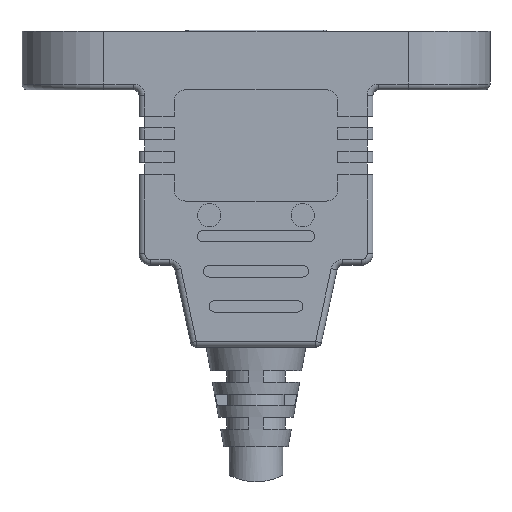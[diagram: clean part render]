
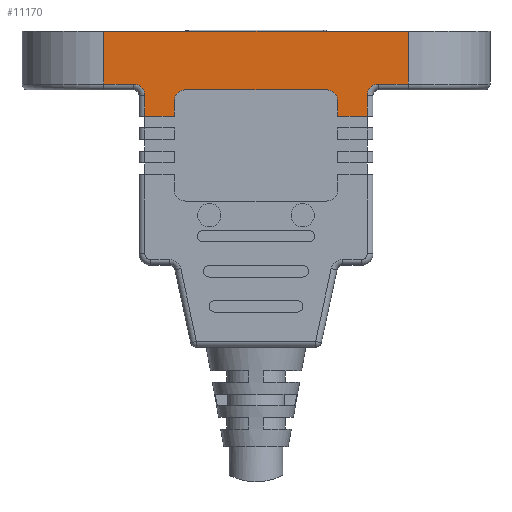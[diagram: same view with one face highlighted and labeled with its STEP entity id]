
A CAD part, front view. The second image highlights one B-rep face of the part: STEP entity #11170.
In plain terms, the highlighted planar face has unit normal (0, -1, 0).
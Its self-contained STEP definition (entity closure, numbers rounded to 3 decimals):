
#5 = EDGE_CURVE ( 'NONE', #11988, #7165, #15128, .T. ) ;
#55 = CARTESIAN_POINT ( 'NONE',  ( 33., 0., 5. ) ) ;
#143 = CIRCLE ( 'NONE', #6506, 1. ) ;
#535 = VECTOR ( 'NONE', #1650, 1000. ) ;
#581 = LINE ( 'NONE', #55, #13187 ) ;
#598 = LINE ( 'NONE', #1717, #9202 ) ;
#689 = LINE ( 'NONE', #10409, #6410 ) ;
#742 = VECTOR ( 'NONE', #5722, 1000. ) ;
#1275 = CARTESIAN_POINT ( 'NONE',  ( 13., 0., -1. ) ) ;
#1345 = CARTESIAN_POINT ( 'NONE',  ( 14., 0., -1. ) ) ;
#1611 = VERTEX_POINT ( 'NONE', #1275 ) ;
#1650 = DIRECTION ( 'NONE',  ( -1., 0., 0. ) ) ;
#1717 = CARTESIAN_POINT ( 'NONE',  ( 10.5, 0., 5. ) ) ;
#1747 = CARTESIAN_POINT ( 'NONE',  ( 33., 0., 0.5 ) ) ;
#1931 = DIRECTION ( 'NONE',  ( 0., 1., 0. ) ) ;
#1956 = LINE ( 'NONE', #12180, #10180 ) ;
#2083 = DIRECTION ( 'NONE',  ( -1., 0., 0. ) ) ;
#2164 = VECTOR ( 'NONE', #9977, 1000. ) ;
#2226 = EDGE_CURVE ( 'NONE', #1611, #15515, #3768, .T. ) ;
#2281 = VERTEX_POINT ( 'NONE', #13775 ) ;
#2369 = VERTEX_POINT ( 'NONE', #6596 ) ;
#2558 = DIRECTION ( 'NONE',  ( -1., 0., 0. ) ) ;
#2597 = ORIENTED_EDGE ( 'NONE', *, *, #14927, .F. ) ;
#2857 = DIRECTION ( 'NONE',  ( -1., 0., 0. ) ) ;
#3007 = CARTESIAN_POINT ( 'NONE',  ( 9.5, 0., -0.5 ) ) ;
#3020 = CARTESIAN_POINT ( 'NONE',  ( 13., 0., -2.25 ) ) ;
#3308 = FACE_OUTER_BOUND ( 'NONE', #10779, .T. ) ;
#3443 = VECTOR ( 'NONE', #5868, 1000. ) ;
#3447 = ORIENTED_EDGE ( 'NONE', *, *, #5, .F. ) ;
#3459 = EDGE_CURVE ( 'NONE', #6348, #5518, #12184, .T. ) ;
#3768 = CIRCLE ( 'NONE', #14441, 1. ) ;
#3810 = EDGE_CURVE ( 'NONE', #12704, #2369, #598, .T. ) ;
#3815 = EDGE_CURVE ( 'NONE', #12704, #5518, #9952, .T. ) ;
#3914 = DIRECTION ( 'NONE',  ( 0., 1., 0. ) ) ;
#3941 = CARTESIAN_POINT ( 'NONE',  ( 7., 0., 0.5 ) ) ;
#3980 = CARTESIAN_POINT ( 'NONE',  ( 7., 0., 5. ) ) ;
#3990 = ORIENTED_EDGE ( 'NONE', *, *, #14013, .T. ) ;
#4227 = CARTESIAN_POINT ( 'NONE',  ( 10.5, 0., -0.5 ) ) ;
#4273 = CARTESIAN_POINT ( 'NONE',  ( 7., 0., -2.25 ) ) ;
#4638 = CARTESIAN_POINT ( 'NONE',  ( 7., 0., 0. ) ) ;
#4797 = AXIS2_PLACEMENT_3D ( 'NONE', #3007, #13990, #9255 ) ;
#5008 = CARTESIAN_POINT ( 'NONE',  ( 27., 0., 5. ) ) ;
#5117 = ORIENTED_EDGE ( 'NONE', *, *, #3459, .T. ) ;
#5144 = DIRECTION ( 'NONE',  ( 0., 1., 0. ) ) ;
#5213 = ORIENTED_EDGE ( 'NONE', *, *, #2226, .T. ) ;
#5485 = ORIENTED_EDGE ( 'NONE', *, *, #3810, .T. ) ;
#5518 = VERTEX_POINT ( 'NONE', #13164 ) ;
#5570 = DIRECTION ( 'NONE',  ( -1., 0., 0. ) ) ;
#5604 = CARTESIAN_POINT ( 'NONE',  ( 7., 0., 5. ) ) ;
#5646 = DIRECTION ( 'NONE',  ( 1., 0., 0. ) ) ;
#5722 = DIRECTION ( 'NONE',  ( 1., 0., 0. ) ) ;
#5868 = DIRECTION ( 'NONE',  ( 1., 0., 0. ) ) ;
#6019 = EDGE_CURVE ( 'NONE', #11553, #11719, #143, .T. ) ;
#6211 = DIRECTION ( 'NONE',  ( 0., 0., 1. ) ) ;
#6319 = CARTESIAN_POINT ( 'NONE',  ( 7., 0., -2.25 ) ) ;
#6348 = VERTEX_POINT ( 'NONE', #3941 ) ;
#6410 = VECTOR ( 'NONE', #9298, 1000. ) ;
#6433 = CARTESIAN_POINT ( 'NONE',  ( 27., 0., -2.25 ) ) ;
#6506 = AXIS2_PLACEMENT_3D ( 'NONE', #9317, #9372, #2083 ) ;
#6518 = VERTEX_POINT ( 'NONE', #8906 ) ;
#6526 = CARTESIAN_POINT ( 'NONE',  ( 14., 0., 0. ) ) ;
#6595 = ORIENTED_EDGE ( 'NONE', *, *, #10167, .T. ) ;
#6596 = CARTESIAN_POINT ( 'NONE',  ( 10.5, 0., -2.25 ) ) ;
#6762 = DIRECTION ( 'NONE',  ( 0., 0., -1. ) ) ;
#6914 = VERTEX_POINT ( 'NONE', #12157 ) ;
#6987 = ORIENTED_EDGE ( 'NONE', *, *, #14137, .F. ) ;
#7036 = AXIS2_PLACEMENT_3D ( 'NONE', #10172, #3914, #2857 ) ;
#7165 = VERTEX_POINT ( 'NONE', #15174 ) ;
#7365 = LINE ( 'NONE', #14330, #10613 ) ;
#7552 = ORIENTED_EDGE ( 'NONE', *, *, #9008, .T. ) ;
#7864 = EDGE_CURVE ( 'NONE', #12764, #6348, #689, .T. ) ;
#8393 = EDGE_CURVE ( 'NONE', #12764, #2281, #9997, .T. ) ;
#8474 = VECTOR ( 'NONE', #11711, 1000. ) ;
#8666 = AXIS2_PLACEMENT_3D ( 'NONE', #15372, #1931, #5570 ) ;
#8723 = CARTESIAN_POINT ( 'NONE',  ( 30.5, 0., 0.5 ) ) ;
#8906 = CARTESIAN_POINT ( 'NONE',  ( 29.5, 0., -2.25 ) ) ;
#8949 = PLANE ( 'NONE',  #7036 ) ;
#9008 = EDGE_CURVE ( 'NONE', #6914, #7165, #13275, .T. ) ;
#9202 = VECTOR ( 'NONE', #6762, 1000. ) ;
#9255 = DIRECTION ( 'NONE',  ( -1., 0., 0. ) ) ;
#9298 = DIRECTION ( 'NONE',  ( 0., 0., -1. ) ) ;
#9317 = CARTESIAN_POINT ( 'NONE',  ( 30.5, 0., -0.5 ) ) ;
#9372 = DIRECTION ( 'NONE',  ( 0., -1., 0. ) ) ;
#9409 = CARTESIAN_POINT ( 'NONE',  ( 10., 0., 0.5 ) ) ;
#9422 = EDGE_CURVE ( 'NONE', #11988, #6518, #10201, .T. ) ;
#9567 = ORIENTED_EDGE ( 'NONE', *, *, #10955, .T. ) ;
#9608 = VECTOR ( 'NONE', #12207, 1000. ) ;
#9788 = ORIENTED_EDGE ( 'NONE', *, *, #8393, .F. ) ;
#9884 = CARTESIAN_POINT ( 'NONE',  ( 29.5, 0., 5. ) ) ;
#9952 = CIRCLE ( 'NONE', #4797, 1. ) ;
#9977 = DIRECTION ( 'NONE',  ( 1., 0., 0. ) ) ;
#9997 = LINE ( 'NONE', #3980, #8474 ) ;
#10167 = EDGE_CURVE ( 'NONE', #11553, #14985, #7365, .T. ) ;
#10172 = CARTESIAN_POINT ( 'NONE',  ( 7., 0., 5. ) ) ;
#10173 = CARTESIAN_POINT ( 'NONE',  ( 29.5, 0., -0.5 ) ) ;
#10180 = VECTOR ( 'NONE', #15724, 1000. ) ;
#10201 = LINE ( 'NONE', #6319, #2164 ) ;
#10409 = CARTESIAN_POINT ( 'NONE',  ( 7., 0., 5. ) ) ;
#10482 = LINE ( 'NONE', #4273, #535 ) ;
#10540 = VECTOR ( 'NONE', #6211, 1000. ) ;
#10613 = VECTOR ( 'NONE', #5646, 1000. ) ;
#10769 = ORIENTED_EDGE ( 'NONE', *, *, #13704, .T. ) ;
#10779 = EDGE_LOOP ( 'NONE', ( #13185, #5485, #2597, #9567, #5213, #3990, #7552, #3447, #13315, #10769, #11174, #6595, #6987, #9788, #12863, #5117 ) ) ;
#10955 = EDGE_CURVE ( 'NONE', #14374, #1611, #1956, .T. ) ;
#11170 = ADVANCED_FACE ( 'NONE', ( #3308 ), #8949, .F. ) ;
#11174 = ORIENTED_EDGE ( 'NONE', *, *, #6019, .F. ) ;
#11553 = VERTEX_POINT ( 'NONE', #8723 ) ;
#11711 = DIRECTION ( 'NONE',  ( 1., 0., 0. ) ) ;
#11719 = VERTEX_POINT ( 'NONE', #10173 ) ;
#11988 = VERTEX_POINT ( 'NONE', #6433 ) ;
#12157 = CARTESIAN_POINT ( 'NONE',  ( 26., 0., 0. ) ) ;
#12180 = CARTESIAN_POINT ( 'NONE',  ( 13., 0., 5. ) ) ;
#12184 = LINE ( 'NONE', #9409, #742 ) ;
#12207 = DIRECTION ( 'NONE',  ( 0., 0., 1. ) ) ;
#12300 = DIRECTION ( 'NONE',  ( 0., 0., -1. ) ) ;
#12704 = VERTEX_POINT ( 'NONE', #4227 ) ;
#12764 = VERTEX_POINT ( 'NONE', #5604 ) ;
#12863 = ORIENTED_EDGE ( 'NONE', *, *, #7864, .T. ) ;
#13164 = CARTESIAN_POINT ( 'NONE',  ( 9.5, 0., 0.5 ) ) ;
#13185 = ORIENTED_EDGE ( 'NONE', *, *, #3815, .F. ) ;
#13187 = VECTOR ( 'NONE', #12300, 1000. ) ;
#13275 = CIRCLE ( 'NONE', #8666, 1. ) ;
#13315 = ORIENTED_EDGE ( 'NONE', *, *, #9422, .T. ) ;
#13395 = LINE ( 'NONE', #9884, #10540 ) ;
#13704 = EDGE_CURVE ( 'NONE', #6518, #11719, #13395, .T. ) ;
#13775 = CARTESIAN_POINT ( 'NONE',  ( 33., 0., 5. ) ) ;
#13990 = DIRECTION ( 'NONE',  ( 0., -1., 0. ) ) ;
#14013 = EDGE_CURVE ( 'NONE', #15515, #6914, #15270, .T. ) ;
#14137 = EDGE_CURVE ( 'NONE', #2281, #14985, #581, .T. ) ;
#14330 = CARTESIAN_POINT ( 'NONE',  ( 33., 0., 0.5 ) ) ;
#14374 = VERTEX_POINT ( 'NONE', #3020 ) ;
#14441 = AXIS2_PLACEMENT_3D ( 'NONE', #1345, #5144, #2558 ) ;
#14927 = EDGE_CURVE ( 'NONE', #14374, #2369, #10482, .T. ) ;
#14985 = VERTEX_POINT ( 'NONE', #1747 ) ;
#15128 = LINE ( 'NONE', #5008, #9608 ) ;
#15174 = CARTESIAN_POINT ( 'NONE',  ( 27., 0., -1. ) ) ;
#15270 = LINE ( 'NONE', #4638, #3443 ) ;
#15372 = CARTESIAN_POINT ( 'NONE',  ( 26., 0., -1. ) ) ;
#15515 = VERTEX_POINT ( 'NONE', #6526 ) ;
#15724 = DIRECTION ( 'NONE',  ( 0., 0., 1. ) ) ;
